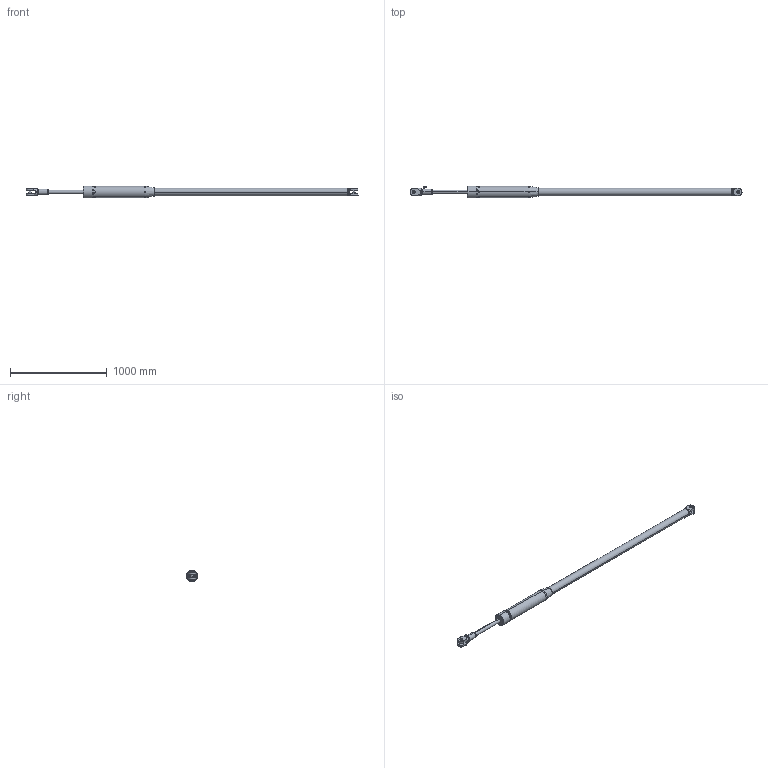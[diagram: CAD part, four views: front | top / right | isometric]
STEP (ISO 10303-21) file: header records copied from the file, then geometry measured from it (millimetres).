
FILE_DESCRIPTION (( 'STEP AP203' ), '1' );
FILE_NAME ('VNG_090.STEP', '2018-01-09T11:30:04', ( 'utente' ), ( '' ), 'SwSTEP 2.0', 'SolidWorks 2015', '' );
FILE_SCHEMA (( 'CONFIG_CONTROL_DESIGN' ));
Length unit declared in the file: millimetre
Products named in the file (1): VNG_090
Bounding box: 3440 x 124 x 124 mm (x, y, z)
Volume: 19546420.5 mm3; surface area: 940032.1 mm2
Topology: 1 solids, 1 shells, 157 faces, 371 edges, 228 vertices
Faces by surface type: plane 60, cylinder 45, cone 26, torus 26
Entity records: 5347 total; most frequent: CARTESIAN_POINT 1636, DIRECTION 793, ORIENTED_EDGE 742, EDGE_CURVE 371, AXIS2_PLACEMENT_3D 320, VERTEX_POINT 228, EDGE_LOOP 173, CIRCLE 162
